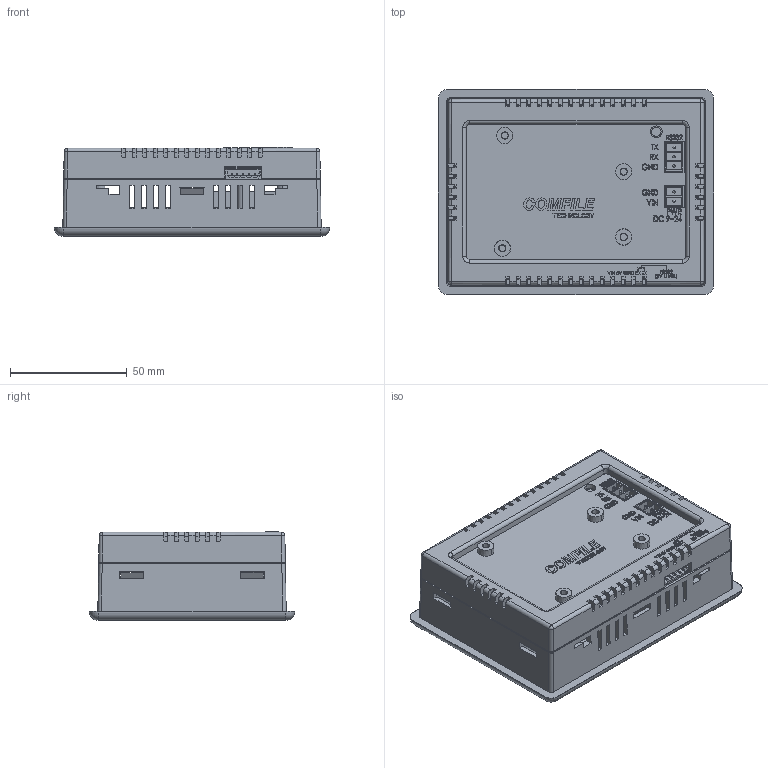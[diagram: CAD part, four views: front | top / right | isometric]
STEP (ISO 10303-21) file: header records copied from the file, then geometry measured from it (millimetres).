
FILE_DESCRIPTION (( 'STEP AP214' ), '1' );
FILE_NAME ('UIF-5K 馨檜蝶.STEP', '2016-03-17T05:02:54', ( 'Registered User' ), ( 'Microsoft Corporation' ), 'SwSTEP 2.0', 'SolidWorks 2014', '' );
FILE_SCHEMA (( 'AUTOMOTIVE_DESIGN' ));
Length unit declared in the file: millimetre
Products named in the file (1): UIF-5K 馨檜蝶
Bounding box: 118 x 88 x 38.16 mm (x, y, z)
Surface area: 70061.6 mm2 (no closed solid volume)
Topology: 0 solids, 38 shells, 1395 faces, 5474 edges, 3895 vertices
Faces by surface type: plane 976, bspline 199, cylinder 159, cone 38, torus 14, sphere 9
Entity records: 83025 total; most frequent: CARTESIAN_POINT 25097, ORIENTED_EDGE 8778, DIRECTION 7340, EDGE_CURVE 5455, LINE 4148, VECTOR 4148, VERTEX_POINT 3885, EDGE_LOOP 1606
